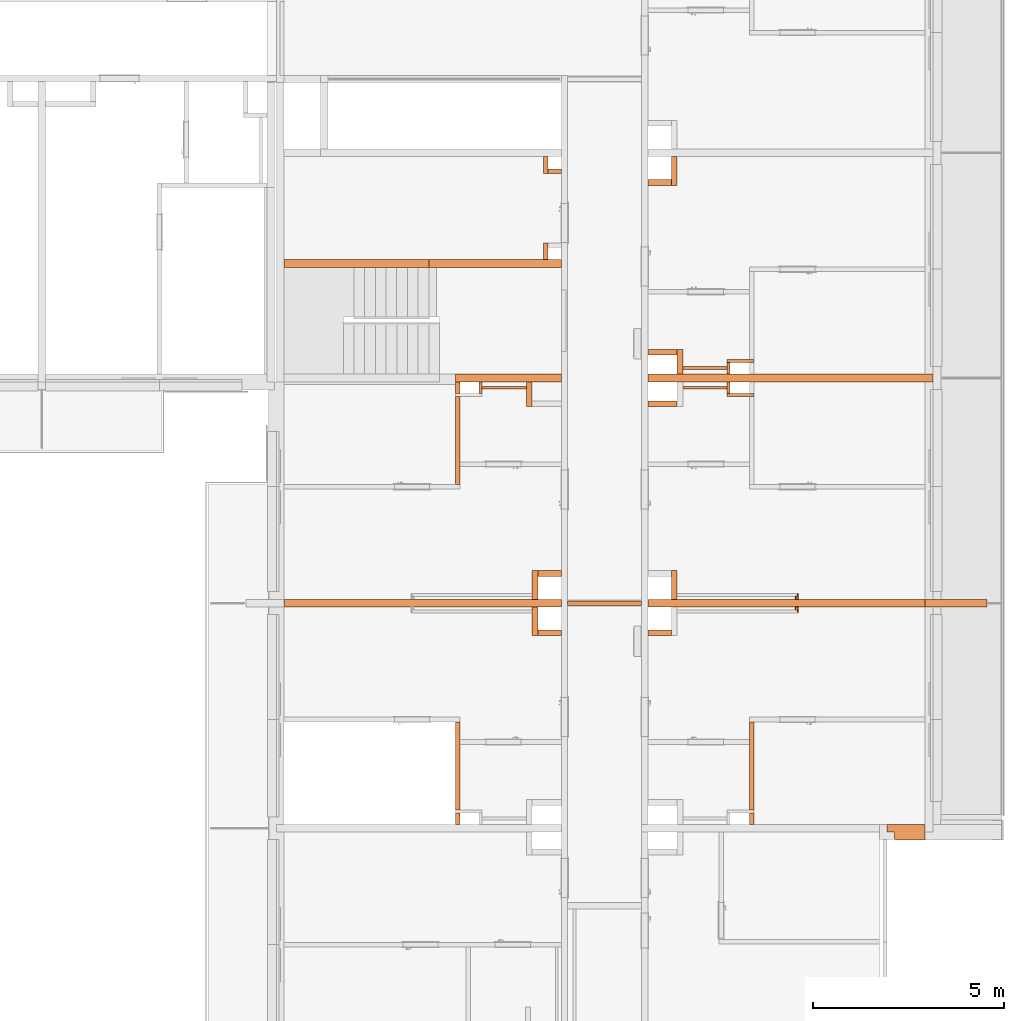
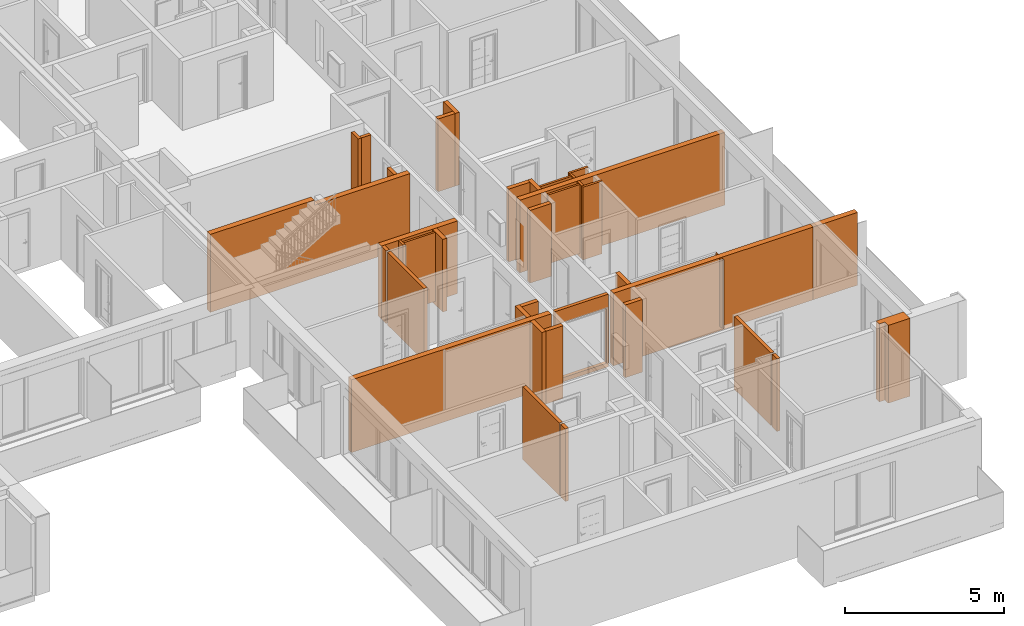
# One storey, part 63 of 64: 36 proxies, 1 opening.
"""IFC2X3 building model written with IfcOpenShell, lengths in millimetres."""

from ifc_helpers import new_model, entity, si_unit, converted_unit, derived_unit, money_unit, direction, frame, origin_with_axes, origin_2d_with_axis, place, context, subcontext, project, spatial, rectangle, extrude, faceted_brep, material, material_list, type_object, element, save


model = new_model("IFC2X3")

# Units and contexts
model_context = context("Model", 3, precision=0.01, world=origin_with_axes(), true_north=direction((0.34421633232, 0.938890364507)))
body_context = subcontext(model_context, "Body", "Model", "MODEL_VIEW")
ifc_project = project(units=[si_unit("LENGTHUNIT", "METRE", prefix="MILLI"), si_unit("AREAUNIT", "SQUARE_METRE"), si_unit("VOLUMEUNIT", "CUBIC_METRE"), converted_unit("PLANEANGLEUNIT", "DEGREE", entity("IfcPlaneAngleMeasure", 0.0174532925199), si_unit("PLANEANGLEUNIT", "RADIAN"), dimensions=[0, 0, 0, 0, 0, 0, 0]), si_unit("SOLIDANGLEUNIT", "STERADIAN"), money_unit("USD"), converted_unit("TIMEUNIT", "Year", entity("IfcTimeMeasure", 31556926.0), si_unit("TIMEUNIT", "SECOND"), dimensions=[0, 0, 1, 0, 0, 0, 0]), si_unit("MASSUNIT", "GRAM", prefix="KILO"), si_unit("THERMODYNAMICTEMPERATUREUNIT", "DEGREE_CELSIUS"), si_unit("LUMINOUSINTENSITYUNIT", "LUMEN"), si_unit("ENERGYUNIT", "JOULE", prefix="MEGA"), derived_unit("THERMALCONDUCTANCEUNIT", [(si_unit("POWERUNIT", "WATT"), 1), (si_unit("LENGTHUNIT", "METRE"), -1), (si_unit("THERMODYNAMICTEMPERATUREUNIT", "KELVIN"), -1)]), derived_unit("SPECIFICHEATCAPACITYUNIT", [(si_unit("ENERGYUNIT", "JOULE"), 1), (si_unit("MASSUNIT", "GRAM", prefix="KILO"), -1), (si_unit("THERMODYNAMICTEMPERATUREUNIT", "KELVIN"), -1)]), derived_unit("MASSDENSITYUNIT", [(si_unit("MASSUNIT", "GRAM", prefix="KILO"), 1), (si_unit("VOLUMEUNIT", "CUBIC_METRE"), -1)])], contexts=[model_context])

# Site, building, storey
site_placement = place(None, origin_with_axes())
site = spatial("IfcSite", under=ifc_project, at=site_placement, Name="USTRONIE MORSKIE", CompositionType="ELEMENT")
building_placement = place(site_placement, origin_with_axes())
building = spatial("IfcBuilding", under=site, at=building_placement, Name="Budynek", CompositionType="ELEMENT")
storey_placement = place(building_placement, frame((0.0, 0.0, 7000.0), z_axis=(0.0, 0.0, 1.0), x_axis=(1.0, 0.0, 0.0)))
storey = spatial("IfcBuildingStorey", under=building, at=storey_placement, Name="PIĘTRO 2", CompositionType="ELEMENT", Elevation=7000.0)

# Proxies
ifc_material_1 = material(Name="Bloczki silikatowe")
building_element_proxy_type_1 = type_object("IfcBuildingElementProxyType", Name="Bloczki silikatowe 120", PredefinedType="NOTDEFINED")
proxy_1_placement = place(storey_placement, frame((415587.920919, 732381.198997, -160.0), z_axis=(0.0, 0.0, 1.0), x_axis=(1.0, 0.0, 0.0)))
element("IfcBuildingElementProxy", 1, at=proxy_1_placement, inside=storey, type_object=building_element_proxy_type_1, material=ifc_material_1, Name="SW-04", context=body_context, shape_type="Brep", body=[
    faceted_brep([(350.0, -120.0, 2800.0), (350.0, 0.0, 2800.0), (0.0, 0.0, 2800.0), (0.0, -120.0, 2800.0), (350.0, -120.0, 0.0), (350.0, 0.0, 0.0), (0.0, 0.0, 0.0), (0.0, -120.0, 0.0)], [[[0, 1, 2, 3]], [[1, 0, 4, 5]], [[1, 5, 6, 2]], [[7, 3, 2, 6]], [[4, 0, 3, 7]], [[5, 4, 7, 6]]]),
])
proxy_2_placement = place(storey_placement, frame((413217.920919, 726901.199036, -160.0), z_axis=(0.0, 0.0, 1.0), x_axis=(0.0, -1.0, 0.0)))
element("IfcBuildingElementProxy", 2, at=proxy_2_placement, inside=storey, type_object=building_element_proxy_type_1, material=ifc_material_1, Name="SW-04", context=body_context, shape_type="Brep", body=[
    faceted_brep([(400.01915523, -60.0, 2800.0), (400.01915523, 60.0, 2800.0), (99.9999999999, 60.0, 2800.0), (99.9999999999, -60.0, 2800.0), (400.01915523, -60.0, 0.0), (400.01915523, 60.0, 0.0), (99.9999999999, 60.0, 0.0), (99.9999999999, -60.0, 0.0)], [[[0, 1, 2, 3]], [[1, 0, 4, 5]], [[1, 5, 6, 2]], [[7, 3, 2, 6]], [[4, 0, 3, 7]], [[5, 4, 7, 6]]]),
    faceted_brep([(2790.01935038, -60.0, 2800.0), (2790.01935038, 60.0, 2800.0), (480.01915523, 60.0, 2800.0), (480.01915523, -60.0, 2800.0), (2790.01935038, -60.0, 0.0), (2790.01935038, 60.0, 0.0), (480.01915523, 60.0, 0.0), (480.01915523, -60.0, 0.0)], [[[0, 1, 2, 3]], [[1, 0, 4, 5]], [[1, 5, 6, 2]], [[7, 3, 2, 6]], [[4, 0, 3, 7]], [[5, 4, 7, 6]]]),
])

# Proxy, opening
proxy_3_placement = place(storey_placement, frame((416017.920919, 721001.199036, -160.0), z_axis=(0.0, 0.0, 1.0), x_axis=(1.0, 0.0, 0.0)))
proxy_3 = element("IfcBuildingElementProxy", 3, at=proxy_3_placement, inside=storey, type_object=building_element_proxy_type_1, material=ifc_material_1, Name="SW-04", context=body_context, shape_type="Brep", body=[
    faceted_brep([(2020.0, 59.9999999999, 0.0), (80.0, 59.9999999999, 0.0), (80.0, 59.9999999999, 2800.0), (2020.0, 59.9999999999, 2800.0), (2020.0, -59.9999999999, 0.0), (80.0, -59.9999999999, 0.0), (80.0, -59.9999999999, 2800.0), (2020.0, -59.9999999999, 2800.0)], [[[0, 1, 2, 3]], [[4, 5, 1, 0]], [[5, 6, 2, 1]], [[3, 2, 6, 7]], [[3, 7, 4, 0]], [[7, 6, 5, 4]]]),
])
opening_placement = place(proxy_3_placement, frame((1050.0, 0.0, 160.0), z_axis=(0.0, 0.0, 1.0), x_axis=(1.0, 0.0, 0.0)))
element("IfcOpeningElement", 4, at=opening_placement, cuts=proxy_3, Name="Dw.5s", context=body_context, shape_type="SweptSolid", body=[
    extrude(rectangle(XDim=1820.0, YDim=2120.0, at=origin_2d_with_axis()), frame((0.0, -120.0, 1060.0), z_axis=(0.0, 1.0, 0.0), x_axis=(1.0, 0.0, 0.0)), (0.0, 0.0, 1.0), 360.0),
    extrude(rectangle(XDim=1894.0, YDim=2157.0, at=origin_2d_with_axis()), frame((0.0, -59.9999999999, 1078.5), z_axis=(0.0, 1.0, 0.0), x_axis=(1.0, 0.0, 0.0)), (0.0, 0.0, -1.0), 120.0),
    extrude(rectangle(XDim=1894.0, YDim=2157.0, at=origin_2d_with_axis()), frame((0.0, 60.0000000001, 1078.5), z_axis=(0.0, -1.0, 0.0), x_axis=(1.0, 0.0, 0.0)), (0.0, 0.0, -1.0), 120.0),
])

# Proxies
proxy_4_placement = place(storey_placement, frame((420917.920919, 715101.199036, -160.0), z_axis=(0.0, 0.0, 1.0), x_axis=(0.0, 1.0, 0.0)))
element("IfcBuildingElementProxy", 5, at=proxy_4_placement, inside=storey, type_object=building_element_proxy_type_1, material=ifc_material_1, Name="SW-04", context=body_context, shape_type="Brep", body=[
    faceted_brep([(400.01915523, -60.0, 2800.0), (400.01915523, 60.0, 2800.0), (100.0, 60.0, 2800.0), (100.0, -60.0, 2800.0), (400.01915523, -60.0, 0.0), (400.01915523, 60.0, 0.0), (100.0, 60.0, 0.0), (100.0, -60.0, 0.0)], [[[0, 1, 2, 3]], [[1, 0, 4, 5]], [[1, 5, 6, 2]], [[7, 3, 2, 6]], [[4, 0, 3, 7]], [[5, 4, 7, 6]]]),
    faceted_brep([(2790.01935038, -60.0, 2800.0), (2790.01935038, 60.0, 2800.0), (480.01915523, 60.0, 2800.0), (480.01915523, -60.0, 2800.0), (2790.01935038, -60.0, 0.0), (2790.01935038, 60.0, 0.0), (480.01915523, 60.0, 0.0), (480.01915523, -60.0, 0.0)], [[[0, 1, 2, 3]], [[1, 0, 4, 5]], [[1, 5, 6, 2]], [[7, 3, 2, 6]], [[4, 0, 3, 7]], [[5, 4, 7, 6]]]),
])
proxy_5_placement = place(storey_placement, frame((413217.920919, 715101.199036, -160.0), z_axis=(0.0, 0.0, 1.0), x_axis=(0.0, 1.0, 0.0)))
element("IfcBuildingElementProxy", 6, at=proxy_5_placement, inside=storey, type_object=building_element_proxy_type_1, material=ifc_material_1, Name="SW-04", context=body_context, shape_type="Brep", body=[
    faceted_brep([(2790.01935038, 60.0, 0.0), (2790.01935038, -60.0, 0.0), (480.01915523, -60.0, 0.0), (480.01915523, 60.0, 0.0), (2790.01935038, 60.0, 2800.0), (2790.01935038, -60.0, 2800.0), (480.01915523, -60.0, 2800.0), (480.01915523, 60.0, 2800.0)], [[[0, 1, 2, 3]], [[1, 0, 4, 5]], [[1, 5, 6, 2]], [[7, 3, 2, 6]], [[4, 0, 3, 7]], [[5, 4, 7, 6]]]),
    faceted_brep([(400.01915523, 60.0, 0.0), (400.01915523, -60.0, 0.0), (99.9999880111, -60.0, 0.0), (99.9999874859, 60.0, 0.0), (400.01915523, 60.0, 2800.0), (400.01915523, -60.0, 2800.0), (99.9999880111, -60.0, 2800.0), (99.9999874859, 60.0, 2800.0)], [[[0, 1, 2, 3]], [[1, 0, 4, 5]], [[1, 5, 6, 2]], [[7, 3, 2, 6]], [[4, 0, 3, 7]], [[5, 4, 7, 6]]]),
])
proxy_6_placement = place(storey_placement, frame((415587.920919, 732801.199169, -160.0), z_axis=(0.0, 0.0, 1.0), x_axis=(0.0, -1.0, 0.0)))
element("IfcBuildingElementProxy", 7, at=proxy_6_placement, inside=storey, type_object=building_element_proxy_type_1, material=ifc_material_1, Name="SW-04", context=body_context, shape_type="Brep", body=[
    faceted_brep([(540.000171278, -120.0, 2800.0), (540.000171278, 0.0, 2800.0), (100.000132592, 0.0, 2800.0), (100.000132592, -120.0, 2800.0), (540.000171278, -120.0, 0.0), (540.000171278, 0.0, 0.0), (100.000132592, 0.0, 0.0), (100.000132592, -120.0, 0.0)], [[[0, 1, 2, 3]], [[1, 0, 4, 5]], [[1, 5, 6, 2]], [[7, 3, 2, 6]], [[4, 0, 3, 7]], [[5, 4, 7, 6]]]),
])
proxy_7_placement = place(storey_placement, frame((415587.920919, 729901.198865, -160.0), z_axis=(0.0, 0.0, 1.0), x_axis=(0.0, 1.0, 0.0)))
element("IfcBuildingElementProxy", 8, at=proxy_7_placement, inside=storey, type_object=building_element_proxy_type_1, material=ifc_material_1, Name="SW-04", context=body_context, shape_type="Brep", body=[
    faceted_brep([(540.000171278, 120.0, 0.0), (540.000171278, 0.0, 0.0), (100.000152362, 0.0, 0.0), (100.000147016, 120.0, 0.0), (540.000171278, 120.0, 2800.0), (540.000171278, 0.0, 2800.0), (100.000152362, 0.0, 2800.0), (100.000147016, 120.0, 2800.0)], [[[0, 1, 2, 3]], [[1, 0, 4, 5]], [[1, 5, 6, 2]], [[7, 3, 2, 6]], [[4, 0, 3, 7]], [[5, 4, 7, 6]]]),
])
ifc_material_2 = material(Name="Beton konstrukcyjny B25")
ifc_material_3 = material(Name="Wełna ELEW")
ifc_material_4 = material(Name="Tynk zewnętrzny")
ifc_material_list_1 = material_list([ifc_material_2, ifc_material_3, ifc_material_4])
building_element_proxy_type_2 = type_object("IfcBuildingElementProxyType", Name="20+20 410", PredefinedType="NOTDEFINED")
proxy_8_placement = place(storey_placement, frame((424367.920919, 715101.199036, -160.0), z_axis=(0.0, 0.0, 1.0), x_axis=(1.0, 0.0, 0.0)))
element("IfcBuildingElementProxy", 9, at=proxy_8_placement, inside=storey, type_object=building_element_proxy_type_2, material=ifc_material_list_1, Name="SZ-01", context=body_context, shape_type="Brep", body=[
    faceted_brep([(100.0, 100.0, 0.0), (100.0, 100.0, 2800.0), (100.0, 100.0, 3000.0), (1100.0, 99.9999999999, 3000.0), (1100.0, 99.9999999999, 0.0), (100.0, -100.0, 2800.0), (100.0, -100.0, 0.0), (100.0, -100.0, 3000.0), (1100.0, -100.0, 3000.0), (1100.0, -100.0, 0.0)], [[[0, 1, 2, 3, 4]], [[5, 1, 0, 6]], [[1, 5, 7, 2]], [[2, 7, 8, 3]], [[4, 3, 8, 9]], [[6, 0, 4, 9]], [[5, 6, 9, 8, 7]]]),
    faceted_brep([(300.0, -100.0, 0.0), (300.0, -100.0, 2800.0), (300.0, -100.0, 3000.0), (1100.0, -100.0, 3000.0), (1100.0, -100.0, 0.0), (300.0, -300.0, 2800.0), (300.0, -300.0, 0.0), (300.0, -300.0, 3000.0), (1100.0, -300.0, 3000.0), (1100.0, -300.0, 0.0)], [[[0, 1, 2, 3, 4]], [[5, 1, 0, 6]], [[1, 5, 7, 2]], [[2, 7, 8, 3]], [[4, 3, 8, 9]], [[6, 0, 4, 9]], [[5, 6, 9, 8, 7]]]),
    faceted_brep([(310.0, -300.0, 0.0), (310.0, -300.0, 2800.0), (310.0, -300.0, 3000.0), (1100.0, -300.0, 3000.0), (1100.0, -300.0, 0.0), (310.0, -310.0, 2800.0), (310.0, -310.0, 0.0), (310.0, -310.0, 3000.0), (1100.0, -310.0, 3000.0), (1100.0, -310.0, 0.0)], [[[0, 1, 2, 3, 4]], [[5, 1, 0, 6]], [[1, 5, 7, 2]], [[2, 7, 8, 3]], [[4, 3, 8, 9]], [[6, 0, 4, 9]], [[5, 6, 9, 8, 7]]]),
])
ifc_material_5 = material(Name="-Pustka powietrzna")
ifc_material_6 = material(Name="Płyta GK")
ifc_material_list_2 = material_list([ifc_material_5, ifc_material_6, ifc_material_6])
building_element_proxy_type_3 = type_object("IfcBuildingElementProxyType", Name="330-SD GK 2-warstwy 75", PredefinedType="NOTDEFINED")
proxy_9_placement = place(storey_placement, frame((420317.920919, 727171.200737, -180.0), z_axis=(0.0, 0.0, 1.0), x_axis=(-1.0, 0.0, 0.0)))
element("IfcBuildingElementProxy", 10, at=proxy_9_placement, inside=storey, type_object=building_element_proxy_type_3, material=ifc_material_list_2, Name="Ściana-009", context=body_context, shape_type="Brep", body=[
    faceted_brep([(40.0, 50.0, 180.0), (40.0, 0.0, 180.0), (40.0, 0.0, 2820.0), (40.0, 50.0, 2820.0), (1199.99909883, 0.0, 180.0), (1199.99909883, 50.0, 180.0), (1199.99909883, 0.0, 2820.0), (1199.99909883, 50.0, 2820.0)], [[[0, 1, 2, 3]], [[4, 1, 0, 5]], [[1, 4, 6, 2]], [[7, 3, 2, 6]], [[5, 0, 3, 7]], [[4, 5, 7, 6]]]),
    faceted_brep([(40.0, 0.0, 165.0), (40.0, -12.5, 165.0), (40.0, -12.5, 2820.0), (40.0, 0.0, 2820.0), (1199.99909883, -12.5, 165.0), (1199.99909883, 0.0, 165.0), (1199.99909883, -12.5, 2820.0), (1199.99909883, 0.0, 2820.0)], [[[0, 1, 2, 3]], [[4, 1, 0, 5]], [[1, 4, 6, 2]], [[7, 3, 2, 6]], [[5, 0, 3, 7]], [[4, 5, 7, 6]]]),
    faceted_brep([(40.0, -12.5, 165.0), (40.0, -25.0, 165.0), (40.0, -25.0, 2820.0), (40.0, -12.5, 2820.0), (1199.99909883, -25.0, 165.0), (1199.99909883, -12.5, 165.0), (1199.99909883, -25.0, 2820.0), (1199.99909883, -12.5, 2820.0)], [[[0, 1, 2, 3]], [[4, 1, 0, 5]], [[1, 4, 6, 2]], [[7, 3, 2, 6]], [[5, 0, 3, 7]], [[4, 5, 7, 6]]]),
])
ifc_material_list_3 = material_list([ifc_material_6, ifc_material_6, ifc_material_5])
proxy_10_placement = place(storey_placement, frame((420317.920919, 726631.200807, -180.0), z_axis=(0.0, 0.0, 1.0), x_axis=(-1.0, 0.0, 0.0)))
element("IfcBuildingElementProxy", 11, at=proxy_10_placement, inside=storey, type_object=building_element_proxy_type_3, material=ifc_material_list_3, Name="Ściana-009", context=body_context, shape_type="Brep", body=[
    faceted_brep([(40.0, 25.0, 165.0), (40.0, 12.5, 165.0), (40.0, 12.5, 2820.0), (40.0, 25.0, 2820.0), (1199.99909883, 12.5, 165.0), (1199.99909883, 25.0, 165.0), (1199.99909883, 12.5, 2820.0), (1199.99909883, 25.0, 2820.0)], [[[0, 1, 2, 3]], [[4, 1, 0, 5]], [[1, 4, 6, 2]], [[7, 3, 2, 6]], [[5, 0, 3, 7]], [[4, 5, 7, 6]]]),
    faceted_brep([(40.0, 12.5, 165.0), (40.0, 0.0, 165.0), (40.0, 0.0, 2820.0), (40.0, 12.5, 2820.0), (1199.99909883, 0.0, 165.0), (1199.99909883, 12.5, 165.0), (1199.99909883, 0.0, 2820.0), (1199.99909883, 12.5, 2820.0)], [[[0, 1, 2, 3]], [[4, 1, 0, 5]], [[1, 4, 6, 2]], [[7, 3, 2, 6]], [[5, 0, 3, 7]], [[4, 5, 7, 6]]]),
    faceted_brep([(40.0, 0.0, 180.0), (40.0, -50.0, 180.0), (40.0, -50.0, 2820.0), (40.0, 0.0, 2820.0), (1199.99909883, -50.0, 180.0), (1199.99909883, 0.0, 180.0), (1199.99909883, -50.0, 2820.0), (1199.99909883, 0.0, 2820.0)], [[[0, 1, 2, 3]], [[4, 1, 0, 5]], [[1, 4, 6, 2]], [[7, 3, 2, 6]], [[5, 0, 3, 7]], [[4, 5, 7, 6]]]),
])
proxy_11_placement = place(storey_placement, frame((415092.920018, 726631.200807, -180.0), z_axis=(0.0, 0.0, 1.0), x_axis=(-1.0, 0.0, 0.0)))
element("IfcBuildingElementProxy", 12, at=proxy_11_placement, inside=storey, type_object=building_element_proxy_type_3, material=ifc_material_list_3, Name="Ściana-009", context=body_context, shape_type="Brep", body=[
    faceted_brep([(75.0, 25.0, 165.0), (75.0, 12.5, 165.0), (75.0, 12.5, 2820.0), (75.0, 25.0, 2820.0), (1234.99909883, 12.5, 165.0), (1234.99909883, 25.0, 165.0), (1234.99909883, 12.5, 2820.0), (1234.99909883, 25.0, 2820.0)], [[[0, 1, 2, 3]], [[4, 1, 0, 5]], [[1, 4, 6, 2]], [[2, 6, 7, 3]], [[5, 0, 3, 7]], [[4, 5, 7, 6]]]),
    faceted_brep([(75.0, 12.5, 165.0), (75.0, 0.0, 165.0), (75.0, 0.0, 2820.0), (75.0, 12.5, 2820.0), (1234.99909883, 0.0, 165.0), (1234.99909883, 12.5, 165.0), (1234.99909883, 0.0, 2820.0), (1234.99909883, 12.5, 2820.0)], [[[0, 1, 2, 3]], [[4, 1, 0, 5]], [[1, 4, 6, 2]], [[2, 6, 7, 3]], [[5, 0, 3, 7]], [[4, 5, 7, 6]]]),
    faceted_brep([(75.0, 0.0, 180.0), (75.0, -50.0, 180.0), (75.0, -50.0, 2820.0), (75.0, 0.0, 2820.0), (1234.99909883, -50.0, 180.0), (1234.99909883, 0.0, 180.0), (1234.99909883, -50.0, 2820.0), (1234.99909883, 0.0, 2820.0)], [[[0, 1, 2, 3]], [[4, 1, 0, 5]], [[1, 4, 6, 2]], [[2, 6, 7, 3]], [[5, 0, 3, 7]], [[4, 5, 7, 6]]]),
])
proxy_12_placement = place(storey_placement, frame((422117.920919, 721001.199036, -180.0), z_axis=(0.0, 0.0, 1.0), x_axis=(0.0, 1.0, 0.0)))
element("IfcBuildingElementProxy", 13, at=proxy_12_placement, inside=storey, type_object=building_element_proxy_type_3, material=ifc_material_list_2, Name="Ściana-009", context=body_context, shape_type="Brep", body=[
    faceted_brep([(100.0, 0.0, 180.0), (180.0, 0.0, 180.0), (180.0, 0.0, 2820.0), (100.0, 0.0, 2820.0), (180.0, 50.0, 180.0), (100.0, 50.0, 180.0), (180.0, 50.0, 2820.0), (100.0, 50.0, 2820.0)], [[[0, 1, 2, 3]], [[4, 1, 0, 5]], [[1, 4, 6, 2]], [[6, 7, 3, 2]], [[5, 0, 3, 7]], [[4, 5, 7, 6]]]),
    faceted_brep([(100.0, -12.5, 165.0), (230.0, -12.5, 165.0), (230.0, -12.5, 2820.0), (100.0, -12.5, 2820.0), (230.0, 0.0, 165.0), (100.0, 0.0, 165.0), (230.0, 0.0, 2820.0), (100.0, 0.0, 2820.0)], [[[0, 1, 2, 3]], [[4, 1, 0, 5]], [[1, 4, 6, 2]], [[6, 7, 3, 2]], [[5, 0, 3, 7]], [[4, 5, 7, 6]]]),
    faceted_brep([(100.0, -25.0, 165.0), (242.5, -25.0, 165.0), (242.5, -25.0, 2820.0), (100.0, -25.0, 2820.0), (242.5, -12.5, 165.0), (100.0, -12.5, 165.0), (242.5, -12.5, 2820.0), (100.0, -12.5, 2820.0)], [[[0, 1, 2, 3]], [[4, 1, 0, 5]], [[1, 4, 6, 2]], [[6, 7, 3, 2]], [[5, 0, 3, 7]], [[4, 5, 7, 6]]]),
])
proxy_13_placement = place(storey_placement, frame((422117.920919, 721001.199036, -180.0), z_axis=(0.0, 0.0, 1.0), x_axis=(0.0, -1.0, 0.0)))
element("IfcBuildingElementProxy", 14, at=proxy_13_placement, inside=storey, type_object=building_element_proxy_type_3, material=ifc_material_list_3, Name="Ściana-009", context=body_context, shape_type="Brep", body=[
    faceted_brep([(242.5, 25.0, 165.0), (100.0, 25.0, 165.0), (100.0, 25.0, 2820.0), (242.5, 25.0, 2820.0), (100.0, 12.5, 165.0), (242.5, 12.5, 165.0), (100.0, 12.5, 2820.0), (242.5, 12.5, 2820.0)], [[[0, 1, 2, 3]], [[4, 1, 0, 5]], [[1, 4, 6, 2]], [[3, 2, 6, 7]], [[5, 0, 3, 7]], [[4, 5, 7, 6]]]),
    faceted_brep([(230.0, 12.5, 165.0), (100.0, 12.5, 165.0), (100.0, 12.5, 2820.0), (230.0, 12.5, 2820.0), (100.0, 0.0, 165.0), (230.0, 0.0, 165.0), (100.0, 0.0, 2820.0), (230.0, 0.0, 2820.0)], [[[0, 1, 2, 3]], [[4, 1, 0, 5]], [[1, 4, 6, 2]], [[3, 2, 6, 7]], [[5, 0, 3, 7]], [[4, 5, 7, 6]]]),
    faceted_brep([(180.0, 0.0, 180.0), (100.0, 0.0, 180.0), (100.0, 0.0, 2820.0), (180.0, 0.0, 2820.0), (100.0, -50.0, 180.0), (180.0, -50.0, 180.0), (100.0, -50.0, 2820.0), (180.0, -50.0, 2820.0)], [[[0, 1, 2, 3]], [[4, 1, 0, 5]], [[1, 4, 6, 2]], [[3, 2, 6, 7]], [[5, 0, 3, 7]], [[4, 5, 7, 6]]]),
])
building_element_proxy_type_4 = type_object("IfcBuildingElementProxyType", Name="Bloczki silikatowe 80", PredefinedType="NOTDEFINED")
proxy_14_placement = place(storey_placement, frame((420917.920919, 726461.179881, -160.0), z_axis=(0.0, 0.0, 1.0), x_axis=(-1.0, 0.0, 0.0)))
element("IfcBuildingElementProxy", 15, at=proxy_14_placement, inside=storey, type_object=building_element_proxy_type_4, material=ifc_material_1, Name="Ściana-009", context=body_context, shape_type="Brep", body=[
    faceted_brep([(640.0, 40.0, 0.0), (640.0, -40.0, 0.0), (-60.0, -40.0, 0.0), (-60.0, 40.0, 0.0), (640.0, 40.0, 2800.0), (640.0, -40.0, 2800.0), (-60.0, -40.0, 2800.0), (-60.0, 40.0, 2800.0)], [[[0, 1, 2, 3]], [[1, 0, 4, 5]], [[1, 5, 6, 2]], [[7, 3, 2, 6]], [[4, 0, 3, 7]], [[5, 4, 7, 6]]]),
])
for number, where, z_axis, x_axis in (
    (16, (420317.920919, 726901.199036, -160.0), (0.0, 0.0, 1.0), (0.0, 1.0, 0.0)),
    (17, (413817.920919, 726901.199036, -160.0), (0.0, 0.0, 1.0), (0.0, -1.0, 0.0)),
):
    element("IfcBuildingElementProxy", number, at=place(storey_placement, frame(where, z_axis=z_axis, x_axis=x_axis)), inside=storey, type_object=building_element_proxy_type_4, material=ifc_material_1, Name="Ściana-010", context=body_context, shape_type="Brep", body=[
        faceted_brep([(400.01915523, -40.0, 2800.0), (400.01915523, 40.0, 2800.0), (100.0, 40.0, 2800.0), (100.0, -40.0, 2800.0), (400.01915523, -40.0, 0.0), (400.01915523, 40.0, 0.0), (100.0, 40.0, 0.0), (100.0, -40.0, 0.0)], [[[0, 1, 2, 3]], [[1, 0, 4, 5]], [[1, 5, 6, 2]], [[7, 3, 2, 6]], [[4, 0, 3, 7]], [[5, 4, 7, 6]]]),
    ])
proxy_15_placement = place(storey_placement, frame((420917.920919, 727341.218191, -160.0), z_axis=(0.0, 0.0, 1.0), x_axis=(-1.0, 0.0, 0.0)))
element("IfcBuildingElementProxy", 18, at=proxy_15_placement, inside=storey, type_object=building_element_proxy_type_4, material=ifc_material_1, Name="Ściana-009", context=body_context, shape_type="Brep", body=[
    faceted_brep([(640.0, -40.0, 2800.0), (640.0, 40.0, 2800.0), (-60.0, 40.0, 2800.0), (-60.0, -40.0, 2800.0), (640.0, -40.0, 0.0), (640.0, 40.0, 0.0), (-60.0, 40.0, 0.0), (-60.0, -40.0, 0.0)], [[[0, 1, 2, 3]], [[1, 0, 4, 5]], [[1, 5, 6, 2]], [[7, 3, 2, 6]], [[4, 0, 3, 7]], [[5, 4, 7, 6]]]),
])
proxy_16_placement = place(storey_placement, frame((420317.920919, 726901.199036, -160.0), z_axis=(0.0, 0.0, 1.0), x_axis=(0.0, -1.0, 0.0)))
element("IfcBuildingElementProxy", 19, at=proxy_16_placement, inside=storey, type_object=building_element_proxy_type_4, material=ifc_material_1, Name="Ściana-010", context=body_context, shape_type="Brep", body=[
    faceted_brep([(400.01915523, 40.0, 0.0), (100.0, 40.0, 0.0), (100.0, 40.0, 2800.0), (400.01915523, 40.0, 2800.0), (400.01915523, -40.0, 0.0), (100.0, -40.0, 0.0), (100.0, -40.0, 2800.0), (400.01915523, -40.0, 2800.0)], [[[0, 1, 2, 3]], [[4, 5, 1, 0]], [[5, 6, 2, 1]], [[3, 2, 6, 7]], [[3, 7, 4, 0]], [[7, 6, 5, 4]]]),
])
building_element_proxy_type_5 = type_object("IfcBuildingElementProxyType", Name="Bloczki silikatowe 150", PredefinedType="NOTDEFINED")
proxy_17_placement = place(storey_placement, frame((415092.920018, 726901.199036, -160.0), z_axis=(0.0, 0.0, 1.0), x_axis=(0.0, -1.0, 0.0)))
element("IfcBuildingElementProxy", 20, at=proxy_17_placement, inside=storey, type_object=building_element_proxy_type_5, material=ifc_material_1, Name="Ściana-009", context=body_context, shape_type="Brep", body=[
    faceted_brep([(750.000884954, -75.0, 2800.0), (750.000884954, 75.0, 2800.0), (100.0, 75.0, 2800.0), (100.0, -75.0, 2800.0), (750.000884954, -75.0, 0.0), (750.000884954, 75.0, 0.0), (100.0, 75.0, 0.0), (100.0, -75.0, 0.0)], [[[0, 1, 2, 3]], [[1, 0, 4, 5]], [[1, 5, 6, 2]], [[7, 3, 2, 6]], [[4, 0, 3, 7]], [[5, 4, 7, 6]]]),
])
proxy_18_placement = place(storey_placement, frame((415317.920919, 721001.199074, -160.0), z_axis=(0.0, 0.0, 1.0), x_axis=(0.0, -1.0, 0.0)))
element("IfcBuildingElementProxy", 21, at=proxy_18_placement, inside=storey, type_object=building_element_proxy_type_5, material=ifc_material_1, Name="SW-03", context=body_context, shape_type="Brep", body=[
    faceted_brep([(850.000037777, 0.0, 0.0), (100.000037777, 0.0, 0.0), (100.000037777, 0.0, 2800.0), (850.000037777, 0.0, 2800.0), (850.000037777, -150.0, 0.0), (100.000037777, -150.0, 0.0), (100.000037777, -150.0, 2800.0), (850.000037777, -150.0, 2800.0)], [[[0, 1, 2, 3]], [[4, 5, 1, 0]], [[5, 6, 2, 1]], [[3, 2, 6, 7]], [[4, 0, 3, 7]], [[7, 6, 5, 4]]]),
])
proxy_19_placement = place(storey_placement, frame((419042.92182, 727576.199909, -160.0), z_axis=(0.0, 0.0, 1.0), x_axis=(-1.0, 0.0, 0.0)))
element("IfcBuildingElementProxy", 22, at=proxy_19_placement, inside=storey, type_object=building_element_proxy_type_5, material=ifc_material_1, Name="Ściana-009", context=body_context, shape_type="Brep", body=[
    faceted_brep([(845.00090117, -75.0, 2800.0), (845.00090117, 75.0, 2800.0), (75.0, 75.0, 2800.0), (75.0, -75.0, 2800.0), (845.00090117, -75.0, 0.0), (845.00090117, 75.0, 0.0), (75.0, 75.0, 0.0), (75.0, -75.0, 0.0)], [[[0, 1, 2, 3]], [[1, 0, 4, 5]], [[1, 5, 6, 2]], [[7, 3, 2, 6]], [[4, 0, 3, 7]], [[5, 4, 7, 6]]]),
])
proxy_20_placement = place(storey_placement, frame((418817.920919, 732101.199036, -160.0), z_axis=(0.0, 0.0, 1.0), x_axis=(-1.0, 0.0, 0.0)))
element("IfcBuildingElementProxy", 23, at=proxy_20_placement, inside=storey, type_object=building_element_proxy_type_5, material=ifc_material_1, Name="SW-03", context=body_context, shape_type="Brep", body=[
    faceted_brep([(620.0, 150.0, 0.0), (620.0, 0.0, 0.0), (0.0, 0.0, 0.0), (0.0, 150.0, 0.0), (620.0, 150.0, 2800.0), (620.0, 0.0, 2800.0), (0.0, 0.0, 2800.0), (0.0, 150.0, 2800.0)], [[[0, 1, 2, 3]], [[1, 0, 4, 5]], [[1, 5, 6, 2]], [[7, 3, 2, 6]], [[4, 0, 3, 7]], [[5, 4, 7, 6]]]),
])
proxy_21_placement = place(storey_placement, frame((419042.92182, 726901.199036, -160.0), z_axis=(0.0, 0.0, 1.0), x_axis=(0.0, 1.0, 0.0)))
element("IfcBuildingElementProxy", 24, at=proxy_21_placement, inside=storey, type_object=building_element_proxy_type_5, material=ifc_material_1, Name="Ściana-009", context=body_context, shape_type="Brep", body=[
    faceted_brep([(750.000872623, -75.0, 2800.0), (750.000872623, 75.0, 2800.0), (100.0, 75.0, 2800.0), (100.0, -75.0, 2800.0), (750.000872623, -75.0, 0.0), (750.000872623, 75.0, 0.0), (100.0, 75.0, 0.0), (100.0, -75.0, 0.0)], [[[0, 1, 2, 3]], [[1, 0, 4, 5]], [[1, 5, 6, 2]], [[7, 3, 2, 6]], [[4, 0, 3, 7]], [[5, 4, 7, 6]]]),
])
proxy_22_placement = place(storey_placement, frame((415317.920919, 721001.198998, -160.0), z_axis=(0.0, 0.0, 1.0), x_axis=(0.0, 1.0, 0.0)))
element("IfcBuildingElementProxy", 25, at=proxy_22_placement, inside=storey, type_object=building_element_proxy_type_5, material=ifc_material_1, Name="SW-03", context=body_context, shape_type="Brep", body=[
    faceted_brep([(850.000037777, 150.0, 0.0), (850.000037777, 0.0, 0.0), (100.000037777, 0.0, 0.0), (100.000037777, 150.0, 0.0), (850.000037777, 150.0, 2800.0), (850.000037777, 0.0, 2800.0), (100.000037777, 0.0, 2800.0), (100.000037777, 150.0, 2800.0)], [[[0, 1, 2, 3]], [[1, 0, 4, 5]], [[1, 5, 6, 2]], [[7, 3, 2, 6]], [[4, 0, 3, 7]], [[5, 4, 7, 6]]]),
])
proxy_23_placement = place(storey_placement, frame((415317.920919, 720301.199036, -160.0), z_axis=(0.0, 0.0, 1.0), x_axis=(1.0, 0.0, 0.0)))
element("IfcBuildingElementProxy", 26, at=proxy_23_placement, inside=storey, type_object=building_element_proxy_type_5, material=ifc_material_1, Name="SW-03", context=body_context, shape_type="Brep", body=[
    faceted_brep([(620.0, -150.0, 2800.0), (620.0, 0.0, 2800.0), (0.0, 0.0, 2800.0), (0.0, -150.0, 2800.0), (620.0, -150.0, 0.0), (620.0, 0.0, 0.0), (0.0, 0.0, 0.0), (0.0, -150.0, 0.0)], [[[0, 1, 2, 3]], [[1, 0, 4, 5]], [[1, 5, 6, 2]], [[7, 3, 2, 6]], [[4, 0, 3, 7]], [[5, 4, 7, 6]]]),
])
proxy_24_placement = place(storey_placement, frame((419042.92182, 726226.198151, -160.0), z_axis=(0.0, 0.0, 1.0), x_axis=(-1.0, 0.0, 0.0)))
element("IfcBuildingElementProxy", 27, at=proxy_24_placement, inside=storey, type_object=building_element_proxy_type_5, material=ifc_material_1, Name="Ściana-009", context=body_context, shape_type="Brep", body=[
    faceted_brep([(845.00090117, 75.0, 0.0), (845.00090117, -75.0, 0.0), (75.0, -75.0, 0.0), (75.0, 75.0, 0.0), (845.00090117, 75.0, 2800.0), (845.00090117, -75.0, 2800.0), (75.0, -75.0, 2800.0), (75.0, 75.0, 2800.0)], [[[0, 1, 2, 3]], [[1, 0, 4, 5]], [[1, 5, 6, 2]], [[7, 3, 2, 6]], [[4, 0, 3, 7]], [[5, 4, 7, 6]]]),
])
proxy_25_placement = place(storey_placement, frame((415317.920919, 721701.199036, -160.0), z_axis=(0.0, 0.0, 1.0), x_axis=(1.0, 0.0, 0.0)))
element("IfcBuildingElementProxy", 28, at=proxy_25_placement, inside=storey, type_object=building_element_proxy_type_5, material=ifc_material_1, Name="SW-03", context=body_context, shape_type="Brep", body=[
    faceted_brep([(620.0, 150.0, 0.0), (620.0, 0.0, 0.0), (0.0, 0.0, 0.0), (0.0, 150.0, 0.0), (620.0, 150.0, 2800.0), (620.0, 0.0, 2800.0), (0.0, 0.0, 2800.0), (0.0, 150.0, 2800.0)], [[[0, 1, 2, 3]], [[1, 0, 4, 5]], [[1, 5, 6, 2]], [[7, 3, 2, 6]], [[4, 0, 3, 7]], [[5, 4, 7, 6]]]),
])
proxy_26_placement = place(storey_placement, frame((418817.920919, 732801.199074, -160.0), z_axis=(0.0, 0.0, 1.0), x_axis=(0.0, -1.0, 0.0)))
element("IfcBuildingElementProxy", 29, at=proxy_26_placement, inside=storey, type_object=building_element_proxy_type_5, material=ifc_material_1, Name="SW-03", context=body_context, shape_type="Brep", body=[
    faceted_brep([(850.000037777, 150.0, 0.0), (100.000037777, 150.0, 0.0), (100.000037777, 150.0, 2800.0), (850.000037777, 150.0, 2800.0), (850.000037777, 0.0, 0.0), (100.000037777, 0.0, 0.0), (100.000037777, 0.0, 2800.0), (850.000037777, 0.0, 2800.0)], [[[0, 1, 2, 3]], [[4, 5, 1, 0]], [[5, 6, 2, 1]], [[3, 2, 6, 7]], [[3, 7, 4, 0]], [[7, 6, 5, 4]]]),
])
proxy_27_placement = place(storey_placement, frame((418817.920919, 721001.198998, -160.0), z_axis=(0.0, 0.0, 1.0), x_axis=(0.0, 1.0, 0.0)))
element("IfcBuildingElementProxy", 30, at=proxy_27_placement, inside=storey, type_object=building_element_proxy_type_5, material=ifc_material_1, Name="SW-03", context=body_context, shape_type="Brep", body=[
    faceted_brep([(850.000037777, -150.0, 2800.0), (850.000037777, 0.0, 2800.0), (100.000037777, 0.0, 2800.0), (100.000037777, -150.0, 2800.0), (850.000037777, -150.0, 0.0), (850.000037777, 0.0, 0.0), (100.000037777, 0.0, 0.0), (100.000037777, -150.0, 0.0)], [[[0, 1, 2, 3]], [[1, 0, 4, 5]], [[1, 5, 6, 2]], [[7, 3, 2, 6]], [[4, 0, 3, 7]], [[5, 4, 7, 6]]]),
])
proxy_28_placement = place(storey_placement, frame((418817.920919, 720301.199036, -160.0), z_axis=(0.0, 0.0, 1.0), x_axis=(-1.0, 0.0, 0.0)))
element("IfcBuildingElementProxy", 31, at=proxy_28_placement, inside=storey, type_object=building_element_proxy_type_5, material=ifc_material_1, Name="SW-03", context=body_context, shape_type="Brep", body=[
    faceted_brep([(620.0, 150.0, 0.0), (620.0, 0.0, 0.0), (0.0, 0.0, 0.0), (0.0, 150.0, 0.0), (620.0, 150.0, 2800.0), (620.0, 0.0, 2800.0), (0.0, 0.0, 2800.0), (0.0, 150.0, 2800.0)], [[[0, 1, 2, 3]], [[1, 0, 4, 5]], [[1, 5, 6, 2]], [[7, 3, 2, 6]], [[4, 0, 3, 7]], [[5, 4, 7, 6]]]),
])
building_element_proxy_type_6 = type_object("IfcBuildingElementProxyType", Name="Beton konstrukcyjny B25 200", PredefinedType="NOTDEFINED")
proxy_29_placement = place(storey_placement, frame((425567.920919, 721001.199036, -160.0), z_axis=(0.0, 0.0, 1.0), x_axis=(1.0, 0.0, 0.0)))
element("IfcBuildingElementProxy", 32, at=proxy_29_placement, inside=storey, type_object=building_element_proxy_type_6, material=ifc_material_2, Name="SW-01", context=body_context, shape_type="Brep", body=[
    faceted_brep([(1520.0, -100.0, 0.0), (-100.0, -100.0, 0.0), (-100.0, 100.0, 0.0), (1520.0, 100.0, 0.0), (1520.0, -100.0, 2800.0), (-100.0, -100.0, 2800.0), (-100.0, 100.0, 2800.0), (1520.0, 100.0, 2800.0)], [[[0, 1, 2, 3]], [[4, 5, 1, 0]], [[1, 5, 6, 2]], [[3, 2, 6, 7]], [[7, 4, 0, 3]], [[7, 6, 5, 4]]]),
])
proxy_30_placement = place(storey_placement, frame((425567.920919, 721001.199036, -160.0), z_axis=(0.0, 0.0, 1.0), x_axis=(-1.0, 0.0, 0.0)))
element("IfcBuildingElementProxy", 33, at=proxy_30_placement, inside=storey, type_object=building_element_proxy_type_6, material=ifc_material_2, Name="SW-01", context=body_context, shape_type="Brep", body=[
    faceted_brep([(100.0, -100.0, 0.0), (7370.0, -100.0, 0.0), (7370.0, -100.0, 2800.0), (100.0, -100.0, 2800.0), (100.0, 100.0, 0.0), (7370.0, 100.0, 0.0), (7370.0, 100.0, 2800.0), (100.0, 100.0, 2800.0)], [[[0, 1, 2, 3]], [[4, 5, 1, 0]], [[5, 6, 2, 1]], [[3, 2, 6, 7]], [[4, 0, 3, 7]], [[7, 6, 5, 4]]]),
])
proxy_31_placement = place(storey_placement, frame((425567.920919, 726901.199036, -160.0), z_axis=(0.0, 0.0, 1.0), x_axis=(-1.0, 0.0, 0.0)))
element("IfcBuildingElementProxy", 34, at=proxy_31_placement, inside=storey, type_object=building_element_proxy_type_6, material=ifc_material_2, Name="SW-01", context=body_context, shape_type="Brep", body=[
    faceted_brep([(-100.0, 100.0, 0.0), (7370.0, 100.0, 0.0), (7370.0, -100.0, 0.0), (-100.0, -100.0, 0.0), (-100.0, 100.0, 2800.0), (7370.0, 100.0, 2800.0), (7370.0, -100.0, 2800.0), (-100.0, -100.0, 2800.0)], [[[0, 1, 2, 3]], [[4, 5, 1, 0]], [[6, 2, 1, 5]], [[3, 2, 6, 7]], [[7, 4, 0, 3]], [[7, 6, 5, 4]]]),
])
proxy_32_placement = place(storey_placement, frame((408567.920922, 729901.198705, -160.0), z_axis=(0.0, 0.0, 1.0), x_axis=(1.0, 4.45503924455e-08, 0.0)))
element("IfcBuildingElementProxy", 35, at=proxy_32_placement, inside=storey, type_object=building_element_proxy_type_6, material=ifc_material_2, Name="SW-01", context=body_context, shape_type="Brep", body=[
    faceted_brep([(7370.00000154, 99.9996716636, 2800.0), (7370.00000154, 99.9996716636, 0.0), (100.00000447, 99.999995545, 0.0), (100.00000447, 99.999995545, 3000.0), (3890.00000153, 100.0, 3000.0), (3890.00000153, 100.0, 2800.0), (7369.99999262, -100.000328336, 2800.0), (7369.99999262, -100.000328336, 0.0), (99.999995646, -100.000004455, 0.0), (99.999995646, -100.000004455, 3000.0), (3889.99999262, -100.000173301, 3000.0), (3889.99999262, -100.000173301, 2800.0)], [[[0, 1, 2, 3, 4, 5]], [[1, 0, 6, 7]], [[8, 2, 1, 7]], [[8, 9, 3, 2]], [[9, 10, 4, 3]], [[11, 5, 4, 10]], [[11, 6, 0, 5]], [[7, 6, 11, 10, 9, 8]]]),
])
proxy_33_placement = place(storey_placement, frame((413157.920919, 726901.199036, -160.0), z_axis=(0.0, 0.0, 1.0), x_axis=(1.0, 0.0, 0.0)))
element("IfcBuildingElementProxy", 36, at=proxy_33_placement, inside=storey, type_object=building_element_proxy_type_6, material=ifc_material_2, Name="SW-01", context=body_context, shape_type="Brep", body=[
    faceted_brep([(0.0, 100.0, 0.0), (0.0, 100.0, 2800.0), (2780.0, 100.0, 2800.0), (2780.0, 100.0, 0.0), (0.0, -100.0, 0.0), (0.0, -100.0, 2800.0), (2780.0, -100.0, 2800.0), (2780.0, -100.0, 0.0)], [[[0, 1, 2, 3]], [[4, 5, 1, 0]], [[2, 1, 5, 6]], [[6, 7, 3, 2]], [[4, 0, 3, 7]], [[6, 5, 4, 7]]]),
])
proxy_34_placement = place(storey_placement, frame((416017.920919, 721001.199036, -160.0), z_axis=(0.0, 0.0, 1.0), x_axis=(-1.0, 0.0, 0.0)))
element("IfcBuildingElementProxy", 37, at=proxy_34_placement, inside=storey, type_object=building_element_proxy_type_6, material=ifc_material_2, Name="SW-01", context=body_context, shape_type="Brep", body=[
    faceted_brep([(80.0, -100.0, 0.0), (7350.01178307, -100.0, 0.0), (7350.01178307, -100.0, 2800.0), (80.0, -100.0, 2800.0), (80.0, 100.0, 0.0), (7350.01219666, 100.0, 0.0), (7350.01219666, 100.0, 2800.0), (80.0, 100.0, 2800.0)], [[[0, 1, 2, 3]], [[4, 5, 1, 0]], [[5, 6, 2, 1]], [[3, 2, 6, 7]], [[0, 3, 7, 4]], [[7, 6, 5, 4]]]),
])

save(model, "model.ifc")
